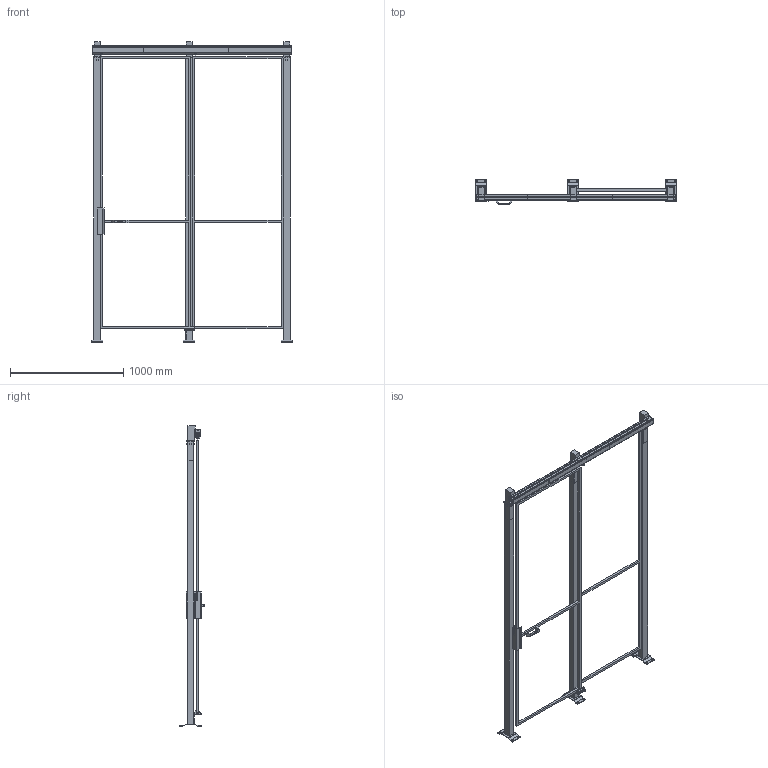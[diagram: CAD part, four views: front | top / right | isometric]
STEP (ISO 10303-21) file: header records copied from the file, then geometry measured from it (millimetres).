
FILE_DESCRIPTION(/* description */ (''),/* implementation_level */ '2;1');
FILE_NAME(/* name */ 'C:\SafeGuarding\ELABORATI\VZOR§POSUVNE_2025-02-05-13-28-41.stp',/* time_stamp */ '2025-02-05T13:28:44+01:00',/* author */ ('admin'),/* organization */ (''),/* preprocessor_version */ 'ST-DEVELOPER v18.1',/* originating_system */ 'AutoCAD Mechanical',/* authorisation */ '');
FILE_SCHEMA (('AUTOMOTIVE_DESIGN { 1 0 10303 214 3 1 1 }'));
Length unit declared in the file: millimetre
Products named in the file (4): Product; VFPA.REPE2008002400; DATI_PORTA; P_VFMA.ME60SDU.2520
Assembly tree (6 placements, depth 2):
  Product
    P_VFMA.ME60SDU.2520  x3
    VFPA.REPE2008002400  x2
    DATI_PORTA
Bounding box: 1770 x 219.95 x 2654 mm (x, y, z)
Volume: 39250416.3 mm3; surface area: 4627268.4 mm2
Topology: 27 solids, 38 shells, 450 faces, 1492 edges, 1385 vertices
Faces by surface type: plane 410, cylinder 38, sphere 2
Full cylindrical faces by diameter (mm): 11 x12, 12 x2, 15 x4, 40 x4
Entity records: 11633 total; most frequent: CARTESIAN_POINT 2453, DIRECTION 1756, ORIENTED_EDGE 1710, EDGE_CURVE 904, LINE 840, VECTOR 840, VERTEX_POINT 644, AXIS2_PLACEMENT_3D 458
